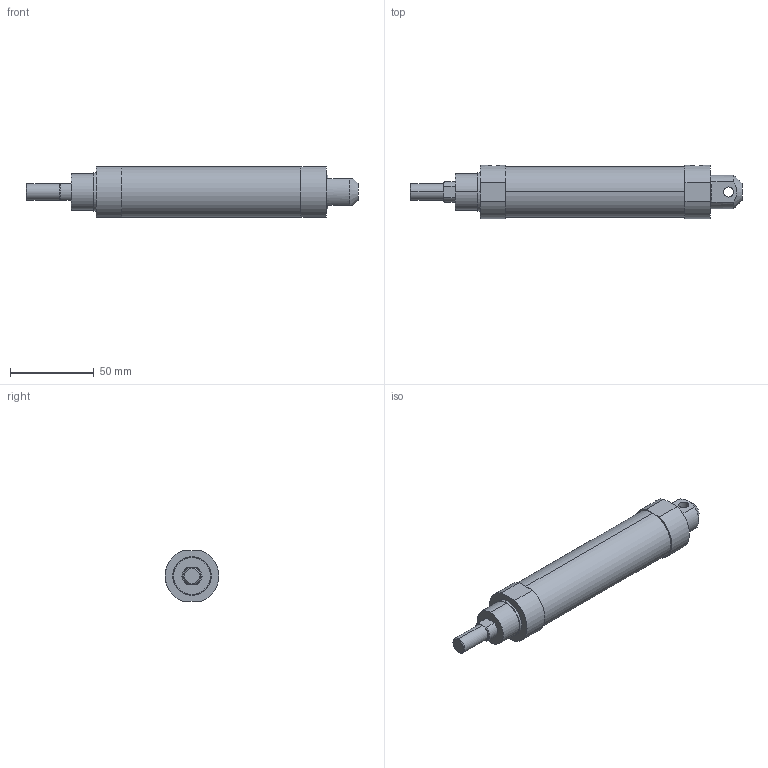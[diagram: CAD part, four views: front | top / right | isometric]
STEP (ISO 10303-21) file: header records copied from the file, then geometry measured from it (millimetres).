
FILE_DESCRIPTION (( 'STEP AP203' ), '1' );
FILE_NAME ('J#2-25-75-C.STEP', '2016-03-08T07:13:06', ( '' ), ( '' ), 'SwSTEP 2.0', 'SolidWorks 2014', '' );
FILE_SCHEMA (( 'CONFIG_CONTROL_DESIGN' ));
Length unit declared in the file: millimetre
Products named in the file (1): J#2-25-75-C
Bounding box: 198 x 32 x 30 mm (x, y, z)
Volume: 110022.5 mm3; surface area: 18784.7 mm2
Topology: 1 solids, 1 shells, 52 faces, 118 edges, 74 vertices
Faces by surface type: plane 24, cylinder 22, cone 6
Entity records: 1701 total; most frequent: CARTESIAN_POINT 429, DIRECTION 262, ORIENTED_EDGE 236, EDGE_CURVE 118, AXIS2_PLACEMENT_3D 103, VERTEX_POINT 74, EDGE_LOOP 60, LINE 56
